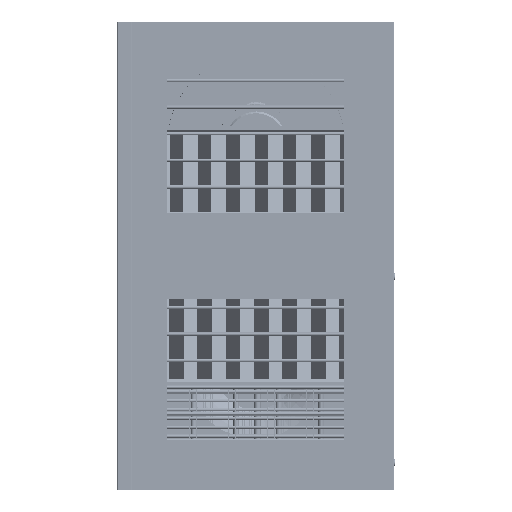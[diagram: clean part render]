
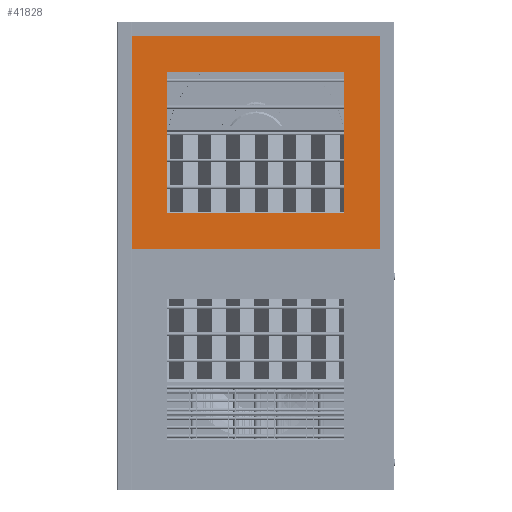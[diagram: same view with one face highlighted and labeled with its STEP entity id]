
A CAD part, left-side view. The second image highlights one B-rep face of the part: STEP entity #41828.
In plain terms, the highlighted planar face has unit normal (-1, 0, 0) as drawn and (0, 1, 0) by its records, which use the part's own axes.
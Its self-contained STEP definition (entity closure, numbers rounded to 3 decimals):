
#4765=FACE_BOUND('',#8914,.T.);
#6316=FACE_OUTER_BOUND('',#8913,.T.);
#8913=EDGE_LOOP('',(#30975,#30976,#30977,#30978));
#8914=EDGE_LOOP('',(#30979,#30980,#30981,#30982));
#12925=LINE('',#67230,#16718);
#12928=LINE('',#67236,#16721);
#12931=LINE('',#67242,#16724);
#12934=LINE('',#67246,#16727);
#12937=LINE('',#67254,#16730);
#12940=LINE('',#67260,#16733);
#12943=LINE('',#67266,#16736);
#12946=LINE('',#67270,#16739);
#16718=VECTOR('',#52728,10.);
#16721=VECTOR('',#52733,10.);
#16724=VECTOR('',#52738,10.);
#16727=VECTOR('',#52743,10.);
#16730=VECTOR('',#52748,10.);
#16733=VECTOR('',#52753,10.);
#16736=VECTOR('',#52758,10.);
#16739=VECTOR('',#52763,10.);
#19931=VERTEX_POINT('',#67227);
#19932=VERTEX_POINT('',#67229);
#19934=VERTEX_POINT('',#67235);
#19936=VERTEX_POINT('',#67241);
#19939=VERTEX_POINT('',#67251);
#19940=VERTEX_POINT('',#67253);
#19942=VERTEX_POINT('',#67259);
#19944=VERTEX_POINT('',#67265);
#24032=EDGE_CURVE('',#19932,#19931,#12925,.T.);
#24035=EDGE_CURVE('',#19934,#19932,#12928,.T.);
#24038=EDGE_CURVE('',#19936,#19934,#12931,.T.);
#24041=EDGE_CURVE('',#19931,#19936,#12934,.T.);
#24044=EDGE_CURVE('',#19940,#19939,#12937,.T.);
#24047=EDGE_CURVE('',#19942,#19940,#12940,.T.);
#24050=EDGE_CURVE('',#19944,#19942,#12943,.T.);
#24053=EDGE_CURVE('',#19939,#19944,#12946,.T.);
#30975=ORIENTED_EDGE('',*,*,#24053,.T.);
#30976=ORIENTED_EDGE('',*,*,#24050,.T.);
#30977=ORIENTED_EDGE('',*,*,#24047,.T.);
#30978=ORIENTED_EDGE('',*,*,#24044,.T.);
#30979=ORIENTED_EDGE('',*,*,#24038,.T.);
#30980=ORIENTED_EDGE('',*,*,#24035,.T.);
#30981=ORIENTED_EDGE('',*,*,#24032,.T.);
#30982=ORIENTED_EDGE('',*,*,#24041,.T.);
#40027=PLANE('',#45477);
#41828=ADVANCED_FACE('',(#6316,#4765),#40027,.T.);
#45477=AXIS2_PLACEMENT_3D('',#67271,#52764,#52765);
#52728=DIRECTION('',(0.,0.,-1.));
#52733=DIRECTION('',(-1.,0.,0.));
#52738=DIRECTION('',(0.,0.,1.));
#52743=DIRECTION('',(1.,0.,0.));
#52748=DIRECTION('',(1.,0.,0.));
#52753=DIRECTION('',(0.,0.,1.));
#52758=DIRECTION('',(-1.,0.,0.));
#52763=DIRECTION('',(0.,0.,-1.));
#52764=DIRECTION('center_axis',(0.,1.,0.));
#52765=DIRECTION('ref_axis',(0.,0.,1.));
#67227=CARTESIAN_POINT('',(200.,4.,-1000.));
#67229=CARTESIAN_POINT('',(200.,4.,-200.));
#67230=CARTESIAN_POINT('',(200.,4.,-400.));
#67235=CARTESIAN_POINT('',(1200.,4.,-200.));
#67236=CARTESIAN_POINT('',(950.,4.,-200.));
#67241=CARTESIAN_POINT('',(1200.,4.,-1000.));
#67242=CARTESIAN_POINT('',(1200.,4.,-800.));
#67246=CARTESIAN_POINT('',(450.,4.,-1000.));
#67251=CARTESIAN_POINT('',(1400.,4.,0.));
#67253=CARTESIAN_POINT('',(0.,4.,0.));
#67254=CARTESIAN_POINT('',(0.,4.,0.));
#67259=CARTESIAN_POINT('',(0.,4.,-1200.));
#67260=CARTESIAN_POINT('',(0.,4.,-1200.));
#67265=CARTESIAN_POINT('',(1400.,4.,-1200.));
#67266=CARTESIAN_POINT('',(1400.,4.,-1200.));
#67270=CARTESIAN_POINT('',(1400.,4.,0.));
#67271=CARTESIAN_POINT('Origin',(700.,4.,-600.));
